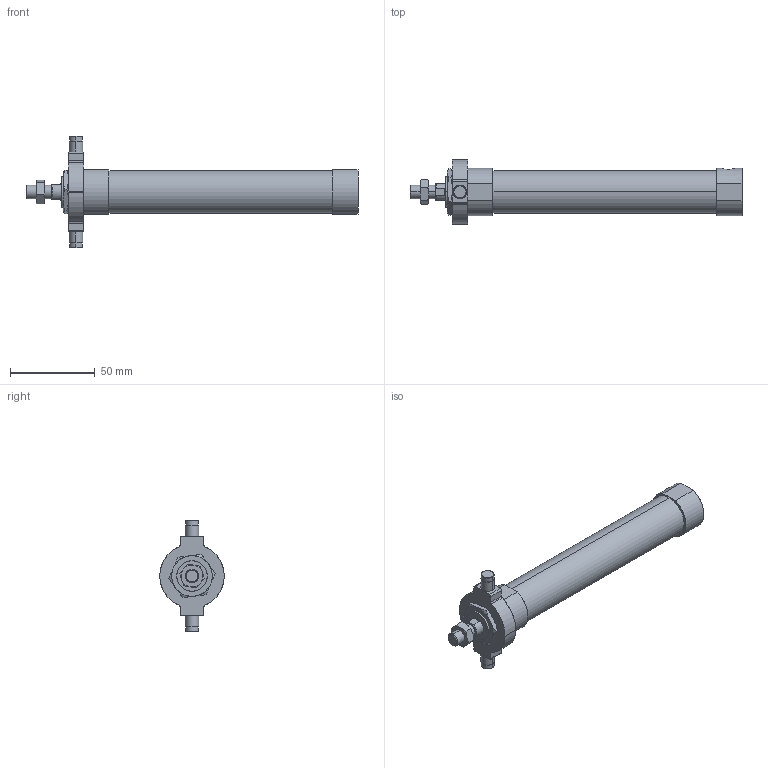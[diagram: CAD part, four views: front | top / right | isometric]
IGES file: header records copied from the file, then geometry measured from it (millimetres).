
Start section: SolidWorks IGES file using analytic representation for surfaces
Global section: file name: C:\Users\Toshiba\Desktop\JGND1-20-50-T.IGS; native system: SolidWorks 2014; preprocessor: SolidWorks 2014; author: Toshiba; date: 160804.101526; units: millimetre
Bounding box: 196 x 38 x 66 mm (x, y, z)
Surface area: 21768.2 mm2 (no closed solid volume)
Topology: 0 solids, 0 shells, 120 faces, 1866 edges, 1866 vertices
Faces by surface type: bspline 67, revolution 53
